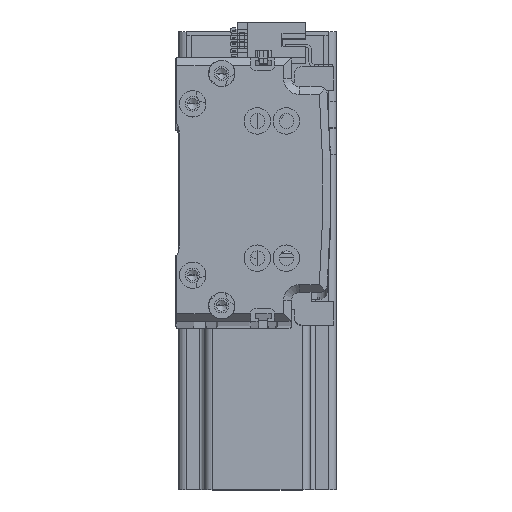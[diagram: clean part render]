
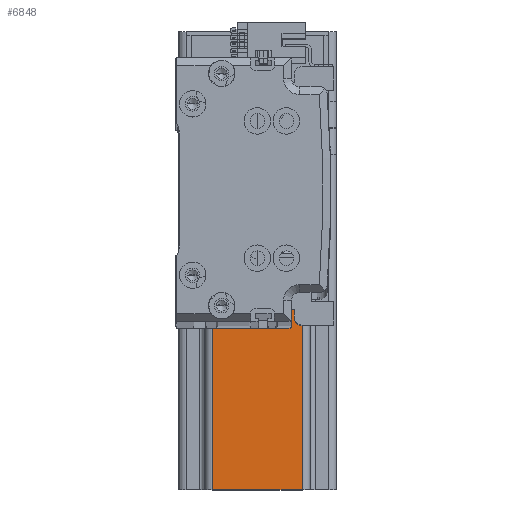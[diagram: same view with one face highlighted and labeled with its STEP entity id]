
A CAD part, top view. The second image highlights one B-rep face of the part: STEP entity #6848.
In plain terms, the highlighted planar face has unit normal (0, 0, 1) as drawn and (0, -1, 0) by its records, which use the part's own axes.
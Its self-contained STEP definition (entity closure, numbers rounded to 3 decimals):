
#290 = CARTESIAN_POINT ( 'NONE',  ( -17., -30., 10. ) ) ;
#1114 = CARTESIAN_POINT ( 'NONE',  ( 27., -30., 0. ) ) ;
#1156 = LINE ( 'NONE', #22602, #54510 ) ;
#1493 = CARTESIAN_POINT ( 'NONE',  ( 17., -30., 137. ) ) ;
#2426 = ORIENTED_EDGE ( 'NONE', *, *, #43310, .T. ) ;
#2748 = LINE ( 'NONE', #6937, #38092 ) ;
#2909 = ORIENTED_EDGE ( 'NONE', *, *, #9850, .T. ) ;
#4213 = ORIENTED_EDGE ( 'NONE', *, *, #46392, .T. ) ;
#6556 = DIRECTION ( 'NONE',  ( 0., 0., 1. ) ) ;
#6570 = EDGE_CURVE ( 'NONE', #23654, #13028, #43717, .T. ) ;
#6848 = ADVANCED_FACE ( 'NONE', ( #37184 ), #43623, .F. ) ;
#6937 = CARTESIAN_POINT ( 'NONE',  ( 30., -30., 0. ) ) ;
#7191 = DIRECTION ( 'NONE',  ( 1., 0., 0. ) ) ;
#8431 = VECTOR ( 'NONE', #7191, 1000. ) ;
#8807 = VECTOR ( 'NONE', #31306, 1000. ) ;
#9850 = EDGE_CURVE ( 'NONE', #13028, #39355, #25273, .T. ) ;
#9868 = LINE ( 'NONE', #53174, #8431 ) ;
#9953 = CARTESIAN_POINT ( 'NONE',  ( 17., -30., 10. ) ) ;
#12012 = CARTESIAN_POINT ( 'NONE',  ( 27., -30., 10. ) ) ;
#12273 = LINE ( 'NONE', #34740, #36792 ) ;
#13028 = VERTEX_POINT ( 'NONE', #9953 ) ;
#13126 = VERTEX_POINT ( 'NONE', #1114 ) ;
#15935 = CARTESIAN_POINT ( 'NONE',  ( 27., -30., 137. ) ) ;
#16895 = EDGE_CURVE ( 'NONE', #54550, #45176, #31908, .T. ) ;
#20423 = LINE ( 'NONE', #15935, #46089 ) ;
#20554 = DIRECTION ( 'NONE',  ( 0., 0., 1. ) ) ;
#20815 = DIRECTION ( 'NONE',  ( 1., 0., 0. ) ) ;
#22602 = CARTESIAN_POINT ( 'NONE',  ( -17., -30., 137. ) ) ;
#23654 = VERTEX_POINT ( 'NONE', #12012 ) ;
#24797 = VERTEX_POINT ( 'NONE', #43291 ) ;
#25273 = LINE ( 'NONE', #34195, #59161 ) ;
#25503 = DIRECTION ( 'NONE',  ( 0., 1., 0. ) ) ;
#25721 = EDGE_LOOP ( 'NONE', ( #35826, #39072, #27783, #46612, #2426, #4213, #57995, #2909 ) ) ;
#26611 = EDGE_CURVE ( 'NONE', #24797, #39355, #9868, .T. ) ;
#27783 = ORIENTED_EDGE ( 'NONE', *, *, #35920, .F. ) ;
#27984 = CARTESIAN_POINT ( 'NONE',  ( 20., -30., 10. ) ) ;
#31306 = DIRECTION ( 'NONE',  ( 0., 0., -1. ) ) ;
#31504 = VECTOR ( 'NONE', #32582, 1000. ) ;
#31908 = LINE ( 'NONE', #54269, #8807 ) ;
#32582 = DIRECTION ( 'NONE',  ( -1., 0., 0. ) ) ;
#34195 = CARTESIAN_POINT ( 'NONE',  ( 17., -30., 137. ) ) ;
#34740 = CARTESIAN_POINT ( 'NONE',  ( -20., -30., 10. ) ) ;
#35826 = ORIENTED_EDGE ( 'NONE', *, *, #26611, .F. ) ;
#35920 = EDGE_CURVE ( 'NONE', #54550, #40563, #12273, .T. ) ;
#36792 = VECTOR ( 'NONE', #20815, 1000. ) ;
#37184 = FACE_OUTER_BOUND ( 'NONE', #25721, .T. ) ;
#38092 = VECTOR ( 'NONE', #39236, 1000. ) ;
#39072 = ORIENTED_EDGE ( 'NONE', *, *, #44086, .T. ) ;
#39236 = DIRECTION ( 'NONE',  ( 1., 0., 0. ) ) ;
#39355 = VERTEX_POINT ( 'NONE', #1493 ) ;
#40563 = VERTEX_POINT ( 'NONE', #290 ) ;
#42456 = CARTESIAN_POINT ( 'NONE',  ( -27., -30., 10. ) ) ;
#43291 = CARTESIAN_POINT ( 'NONE',  ( -17., -30., 137. ) ) ;
#43310 = EDGE_CURVE ( 'NONE', #45176, #13126, #2748, .T. ) ;
#43623 = PLANE ( 'NONE',  #53737 ) ;
#43717 = LINE ( 'NONE', #27984, #31504 ) ;
#44086 = EDGE_CURVE ( 'NONE', #24797, #40563, #1156, .T. ) ;
#45176 = VERTEX_POINT ( 'NONE', #55780 ) ;
#46089 = VECTOR ( 'NONE', #20554, 1000. ) ;
#46392 = EDGE_CURVE ( 'NONE', #13126, #23654, #20423, .T. ) ;
#46612 = ORIENTED_EDGE ( 'NONE', *, *, #16895, .T. ) ;
#50211 = DIRECTION ( 'NONE',  ( 0., 0., -1. ) ) ;
#53101 = CARTESIAN_POINT ( 'NONE',  ( 30., -30., 137. ) ) ;
#53174 = CARTESIAN_POINT ( 'NONE',  ( 30., -30., 137. ) ) ;
#53737 = AXIS2_PLACEMENT_3D ( 'NONE', #53101, #25503, #57733 ) ;
#54269 = CARTESIAN_POINT ( 'NONE',  ( -27., -30., 137. ) ) ;
#54510 = VECTOR ( 'NONE', #50211, 1000. ) ;
#54550 = VERTEX_POINT ( 'NONE', #42456 ) ;
#55780 = CARTESIAN_POINT ( 'NONE',  ( -27., -30., 0. ) ) ;
#57733 = DIRECTION ( 'NONE',  ( -1., 0., 0. ) ) ;
#57995 = ORIENTED_EDGE ( 'NONE', *, *, #6570, .T. ) ;
#59161 = VECTOR ( 'NONE', #6556, 1000. ) ;
